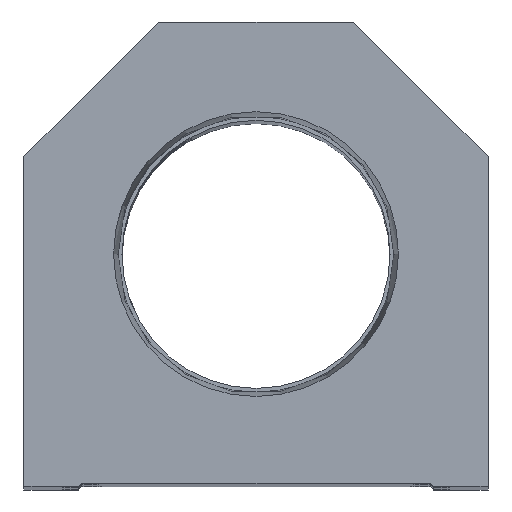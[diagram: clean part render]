
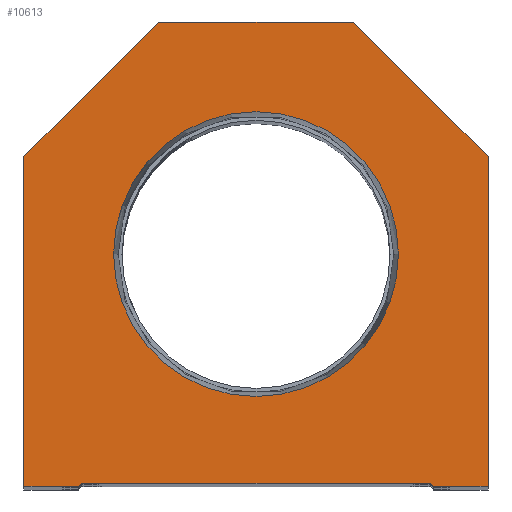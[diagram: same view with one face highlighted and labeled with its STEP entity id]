
A CAD part, top view. The second image highlights one B-rep face of the part: STEP entity #10613.
In plain terms, the highlighted planar face has unit normal (0, 0, 1).
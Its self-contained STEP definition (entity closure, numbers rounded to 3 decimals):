
#37 = LINE ( 'NONE', #15088, #6038 ) ;
#44 = CARTESIAN_POINT ( 'NONE',  ( -38.1, 0., 0. ) ) ;
#87 = ORIENTED_EDGE ( 'NONE', *, *, #5071, .T. ) ;
#260 = CARTESIAN_POINT ( 'NONE',  ( 23.374, 38.1, 0. ) ) ;
#504 = CARTESIAN_POINT ( 'NONE',  ( -23.374, 38.1, 0. ) ) ;
#525 = ORIENTED_EDGE ( 'NONE', *, *, #13725, .T. ) ;
#842 = VERTEX_POINT ( 'NONE', #16818 ) ;
#1295 = ORIENTED_EDGE ( 'NONE', *, *, #10118, .T. ) ;
#1514 = VERTEX_POINT ( 'NONE', #5330 ) ;
#1544 = VERTEX_POINT ( 'NONE', #5029 ) ;
#1666 = LINE ( 'NONE', #4715, #8714 ) ;
#1718 = DIRECTION ( 'NONE',  ( 1., 0., 0. ) ) ;
#1783 = CARTESIAN_POINT ( 'NONE',  ( 16., 76.2, 0. ) ) ;
#1858 = CARTESIAN_POINT ( 'NONE',  ( 0., 0., 0. ) ) ;
#1955 = DIRECTION ( 'NONE',  ( 1., 0., 0. ) ) ;
#2051 = CARTESIAN_POINT ( 'NONE',  ( -38.1, 0., 0. ) ) ;
#2107 = VECTOR ( 'NONE', #10799, 1000. ) ;
#2130 = DIRECTION ( 'NONE',  ( 0., 0., 1. ) ) ;
#2231 = DIRECTION ( 'NONE',  ( 1., 0., 0. ) ) ;
#2542 = AXIS2_PLACEMENT_3D ( 'NONE', #1858, #13862, #1955 ) ;
#2816 = AXIS2_PLACEMENT_3D ( 'NONE', #15592, #2130, #2231 ) ;
#2994 = DIRECTION ( 'NONE',  ( -0.707, -0.707, 0. ) ) ;
#3210 = ORIENTED_EDGE ( 'NONE', *, *, #5890, .T. ) ;
#3219 = DIRECTION ( 'NONE',  ( 1., 0., 0. ) ) ;
#3681 = CARTESIAN_POINT ( 'NONE',  ( 16., 76.2, 0. ) ) ;
#4270 = EDGE_CURVE ( 'NONE', #4360, #12550, #6083, .T. ) ;
#4360 = VERTEX_POINT ( 'NONE', #19035 ) ;
#4554 = CARTESIAN_POINT ( 'NONE',  ( -38.1, 54.1, 0. ) ) ;
#4715 = CARTESIAN_POINT ( 'NONE',  ( 38.1, 0., 0. ) ) ;
#4785 = CARTESIAN_POINT ( 'NONE',  ( -28.6, 0.5, 0. ) ) ;
#5029 = CARTESIAN_POINT ( 'NONE',  ( 38.1, 0., 0. ) ) ;
#5064 = VERTEX_POINT ( 'NONE', #260 ) ;
#5071 = EDGE_CURVE ( 'NONE', #1544, #842, #1666, .T. ) ;
#5330 = CARTESIAN_POINT ( 'NONE',  ( -16., 76.2, 0. ) ) ;
#5422 = VECTOR ( 'NONE', #9117, 1000. ) ;
#5482 = VECTOR ( 'NONE', #14815, 1000. ) ;
#5682 = CARTESIAN_POINT ( 'NONE',  ( -38.1, 54.1, 0. ) ) ;
#5852 = CARTESIAN_POINT ( 'NONE',  ( -28.6, 0., 0. ) ) ;
#5890 = EDGE_CURVE ( 'NONE', #8181, #4360, #12290, .T. ) ;
#5982 = LINE ( 'NONE', #16682, #5482 ) ;
#5989 = CARTESIAN_POINT ( 'NONE',  ( 29.1, 0., 0. ) ) ;
#6038 = VECTOR ( 'NONE', #6064, 1000. ) ;
#6064 = DIRECTION ( 'NONE',  ( 0.707, -0.707, 0. ) ) ;
#6083 = LINE ( 'NONE', #4785, #5422 ) ;
#6325 = VECTOR ( 'NONE', #1718, 1000. ) ;
#6457 = ORIENTED_EDGE ( 'NONE', *, *, #10209, .T. ) ;
#6584 = ORIENTED_EDGE ( 'NONE', *, *, #8552, .F. ) ;
#6983 = DIRECTION ( 'NONE',  ( 0., 0., 1. ) ) ;
#7847 = CIRCLE ( 'NONE', #2816, 23.374 ) ;
#7902 = ORIENTED_EDGE ( 'NONE', *, *, #17610, .T. ) ;
#8181 = VERTEX_POINT ( 'NONE', #17591 ) ;
#8335 = VERTEX_POINT ( 'NONE', #5989 ) ;
#8552 = EDGE_CURVE ( 'NONE', #15465, #5064, #7847, .T. ) ;
#8714 = VECTOR ( 'NONE', #8943, 1000. ) ;
#8765 = EDGE_CURVE ( 'NONE', #15690, #12827, #10377, .T. ) ;
#8811 = EDGE_LOOP ( 'NONE', ( #1295, #3210, #9786, #6457, #7902, #87, #525, #17899, #17837, #11054 ) ) ;
#8943 = DIRECTION ( 'NONE',  ( 0., 1., 0. ) ) ;
#9039 = VECTOR ( 'NONE', #3219, 1000. ) ;
#9110 = LINE ( 'NONE', #18250, #9039 ) ;
#9117 = DIRECTION ( 'NONE',  ( 1., 0., 0. ) ) ;
#9118 = VECTOR ( 'NONE', #12060, 1000. ) ;
#9329 = PLANE ( 'NONE',  #2542 ) ;
#9496 = EDGE_CURVE ( 'NONE', #5064, #15465, #17616, .T. ) ;
#9636 = DIRECTION ( 'NONE',  ( -1., 0., 0. ) ) ;
#9786 = ORIENTED_EDGE ( 'NONE', *, *, #4270, .T. ) ;
#10118 = EDGE_CURVE ( 'NONE', #12827, #8181, #16361, .T. ) ;
#10209 = EDGE_CURVE ( 'NONE', #12550, #8335, #37, .T. ) ;
#10377 = LINE ( 'NONE', #44, #9118 ) ;
#10613 = ADVANCED_FACE ( 'NONE', ( #12379, #14241 ), #9329, .T. ) ;
#10799 = DIRECTION ( 'NONE',  ( 0.707, 0.707, 0. ) ) ;
#11054 = ORIENTED_EDGE ( 'NONE', *, *, #8765, .T. ) ;
#11576 = LINE ( 'NONE', #5682, #16888 ) ;
#11807 = DIRECTION ( 'NONE',  ( 1., 0., 0. ) ) ;
#12060 = DIRECTION ( 'NONE',  ( 0., -1., 0. ) ) ;
#12290 = LINE ( 'NONE', #18280, #2107 ) ;
#12379 = FACE_BOUND ( 'NONE', #19025, .T. ) ;
#12550 = VERTEX_POINT ( 'NONE', #16642 ) ;
#12827 = VERTEX_POINT ( 'NONE', #2051 ) ;
#13242 = AXIS2_PLACEMENT_3D ( 'NONE', #14934, #6983, #11807 ) ;
#13725 = EDGE_CURVE ( 'NONE', #842, #16541, #5982, .T. ) ;
#13862 = DIRECTION ( 'NONE',  ( 0., 0., 1. ) ) ;
#14241 = FACE_OUTER_BOUND ( 'NONE', #8811, .T. ) ;
#14635 = VECTOR ( 'NONE', #9636, 1000. ) ;
#14815 = DIRECTION ( 'NONE',  ( -0.707, 0.707, 0. ) ) ;
#14934 = CARTESIAN_POINT ( 'NONE',  ( 0., 38.1, 0. ) ) ;
#14995 = EDGE_CURVE ( 'NONE', #16541, #1514, #18606, .T. ) ;
#15088 = CARTESIAN_POINT ( 'NONE',  ( 14.55, 14.55, 0. ) ) ;
#15465 = VERTEX_POINT ( 'NONE', #504 ) ;
#15592 = CARTESIAN_POINT ( 'NONE',  ( 0., 38.1, 0. ) ) ;
#15690 = VERTEX_POINT ( 'NONE', #4554 ) ;
#16361 = LINE ( 'NONE', #5852, #6325 ) ;
#16373 = EDGE_CURVE ( 'NONE', #1514, #15690, #11576, .T. ) ;
#16541 = VERTEX_POINT ( 'NONE', #3681 ) ;
#16642 = CARTESIAN_POINT ( 'NONE',  ( 28.6, 0.5, 0. ) ) ;
#16682 = CARTESIAN_POINT ( 'NONE',  ( 38.1, 54.1, 0. ) ) ;
#16818 = CARTESIAN_POINT ( 'NONE',  ( 38.1, 54.1, 0. ) ) ;
#16888 = VECTOR ( 'NONE', #2994, 1000. ) ;
#17591 = CARTESIAN_POINT ( 'NONE',  ( -29.1, 0., 0. ) ) ;
#17610 = EDGE_CURVE ( 'NONE', #8335, #1544, #9110, .T. ) ;
#17616 = CIRCLE ( 'NONE', #13242, 23.374 ) ;
#17837 = ORIENTED_EDGE ( 'NONE', *, *, #16373, .T. ) ;
#17899 = ORIENTED_EDGE ( 'NONE', *, *, #14995, .T. ) ;
#18250 = CARTESIAN_POINT ( 'NONE',  ( 28.6, 0., 0. ) ) ;
#18280 = CARTESIAN_POINT ( 'NONE',  ( -14.55, 14.55, 0. ) ) ;
#18319 = ORIENTED_EDGE ( 'NONE', *, *, #9496, .F. ) ;
#18606 = LINE ( 'NONE', #1783, #14635 ) ;
#19025 = EDGE_LOOP ( 'NONE', ( #18319, #6584 ) ) ;
#19035 = CARTESIAN_POINT ( 'NONE',  ( -28.6, 0.5, 0. ) ) ;
